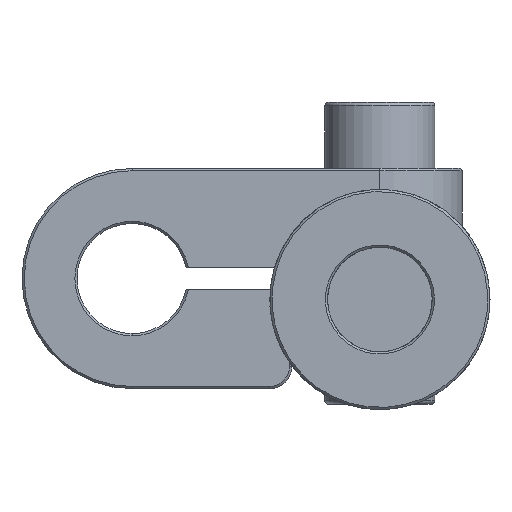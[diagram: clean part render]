
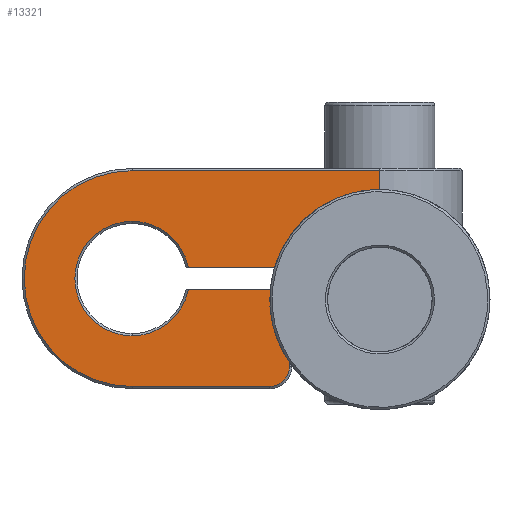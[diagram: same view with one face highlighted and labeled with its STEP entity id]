
A CAD part, front view. The second image highlights one B-rep face of the part: STEP entity #13321.
In plain terms, the highlighted planar face has unit normal (0, -1, 0).
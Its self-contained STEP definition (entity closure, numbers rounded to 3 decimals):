
#37 = VERTEX_POINT ( 'NONE', #14682 ) ;
#357 = VECTOR ( 'NONE', #19851, 1000. ) ;
#636 = LINE ( 'NONE', #1966, #12460 ) ;
#682 = AXIS2_PLACEMENT_3D ( 'NONE', #17622, #8291, #19164 ) ;
#727 = CIRCLE ( 'NONE', #4387, 5.2 ) ;
#1254 = DIRECTION ( 'NONE',  ( 0., -1., 0. ) ) ;
#1330 = EDGE_CURVE ( 'NONE', #8452, #11752, #5473, .T. ) ;
#1460 = EDGE_CURVE ( 'NONE', #8206, #5001, #16148, .T. ) ;
#1592 = VECTOR ( 'NONE', #14135, 1000. ) ;
#1966 = CARTESIAN_POINT ( 'NONE',  ( -5., 4., 8.2 ) ) ;
#2176 = CARTESIAN_POINT ( 'NONE',  ( -9.897, 4., -0.6 ) ) ;
#2623 = CARTESIAN_POINT ( 'NONE',  ( 7.5, 4., -1.6 ) ) ;
#2948 = ORIENTED_EDGE ( 'NONE', *, *, #4662, .F. ) ;
#3104 = CARTESIAN_POINT ( 'NONE',  ( -5., 4., -1.6 ) ) ;
#3151 = ORIENTED_EDGE ( 'NONE', *, *, #10092, .T. ) ;
#3195 = VECTOR ( 'NONE', #19714, 1000. ) ;
#3552 = CARTESIAN_POINT ( 'NONE',  ( -0.7, 4., -2.6 ) ) ;
#3571 = VERTEX_POINT ( 'NONE', #10937 ) ;
#3628 = EDGE_CURVE ( 'NONE', #11752, #5304, #18059, .T. ) ;
#3660 = DIRECTION ( 'NONE',  ( -1., 0., 0. ) ) ;
#3698 = CARTESIAN_POINT ( 'NONE',  ( -15., 4., 8.2 ) ) ;
#3728 = EDGE_CURVE ( 'NONE', #3571, #8206, #18762, .T. ) ;
#4387 = AXIS2_PLACEMENT_3D ( 'NONE', #16355, #7031, #17915 ) ;
#4453 = LINE ( 'NONE', #10549, #357 ) ;
#4662 = EDGE_CURVE ( 'NONE', #10784, #5304, #11424, .T. ) ;
#4664 = DIRECTION ( 'NONE',  ( 0., 0., 1. ) ) ;
#5001 = VERTEX_POINT ( 'NONE', #9795 ) ;
#5026 = CARTESIAN_POINT ( 'NONE',  ( -0.7, 4., -0.6 ) ) ;
#5033 = EDGE_CURVE ( 'NONE', #8452, #13702, #19411, .T. ) ;
#5304 = VERTEX_POINT ( 'NONE', #19697 ) ;
#5473 = CIRCLE ( 'NONE', #6913, 1.2 ) ;
#5482 = ORIENTED_EDGE ( 'NONE', *, *, #9137, .T. ) ;
#5512 = AXIS2_PLACEMENT_3D ( 'NONE', #9483, #19132, #17996 ) ;
#5848 = EDGE_CURVE ( 'NONE', #5001, #13702, #727, .T. ) ;
#6208 = VERTEX_POINT ( 'NONE', #3552 ) ;
#6913 = AXIS2_PLACEMENT_3D ( 'NONE', #9296, #8408, #11198 ) ;
#7031 = DIRECTION ( 'NONE',  ( 0., 1., 0. ) ) ;
#7160 = AXIS2_PLACEMENT_3D ( 'NONE', #10449, #1254, #12016 ) ;
#7363 = DIRECTION ( 'NONE',  ( 1., 0., 0. ) ) ;
#7381 = ORIENTED_EDGE ( 'NONE', *, *, #3628, .T. ) ;
#7884 = ORIENTED_EDGE ( 'NONE', *, *, #19046, .T. ) ;
#8206 = VERTEX_POINT ( 'NONE', #13576 ) ;
#8248 = CARTESIAN_POINT ( 'NONE',  ( -5., 4., -0.6 ) ) ;
#8291 = DIRECTION ( 'NONE',  ( 0., -1., 0. ) ) ;
#8408 = DIRECTION ( 'NONE',  ( 0., 1., 0. ) ) ;
#8452 = VERTEX_POINT ( 'NONE', #5026 ) ;
#8483 = DIRECTION ( 'NONE',  ( 0., 1., 0. ) ) ;
#8601 = CARTESIAN_POINT ( 'NONE',  ( 7.5, 4., 8.2 ) ) ;
#8737 = VECTOR ( 'NONE', #7363, 1000. ) ;
#8819 = FACE_OUTER_BOUND ( 'NONE', #9453, .T. ) ;
#8920 = ORIENTED_EDGE ( 'NONE', *, *, #1460, .T. ) ;
#9034 = CARTESIAN_POINT ( 'NONE',  ( -0.7, 4., -1.6 ) ) ;
#9137 = EDGE_CURVE ( 'NONE', #13717, #18354, #17698, .T. ) ;
#9296 = CARTESIAN_POINT ( 'NONE',  ( 0.5, 4., -0.6 ) ) ;
#9453 = EDGE_LOOP ( 'NONE', ( #11513, #15003, #8920, #13230, #16979, #17189, #7381, #2948, #3151, #5482, #12191, #7884, #12055 ) ) ;
#9483 = CARTESIAN_POINT ( 'NONE',  ( -15., 4., -1.6 ) ) ;
#9795 = CARTESIAN_POINT ( 'NONE',  ( -15., 4., 3.6 ) ) ;
#10092 = EDGE_CURVE ( 'NONE', #10784, #13717, #636, .T. ) ;
#10449 = CARTESIAN_POINT ( 'NONE',  ( -2.5, 4., -9.6 ) ) ;
#10549 = CARTESIAN_POINT ( 'NONE',  ( -5., 4., -2.6 ) ) ;
#10784 = VERTEX_POINT ( 'NONE', #8601 ) ;
#10937 = CARTESIAN_POINT ( 'NONE',  ( -9.897, 4., -2.6 ) ) ;
#10987 = EDGE_CURVE ( 'NONE', #3571, #6208, #4453, .T. ) ;
#11192 = DIRECTION ( 'NONE',  ( -1., 0., 0. ) ) ;
#11198 = DIRECTION ( 'NONE',  ( 0., 0., 1. ) ) ;
#11321 = CARTESIAN_POINT ( 'NONE',  ( -0.7, 4., -9.6 ) ) ;
#11424 = LINE ( 'NONE', #2623, #3195 ) ;
#11513 = ORIENTED_EDGE ( 'NONE', *, *, #10987, .F. ) ;
#11752 = VERTEX_POINT ( 'NONE', #12914 ) ;
#12016 = DIRECTION ( 'NONE',  ( 0., 0., 1. ) ) ;
#12049 = CIRCLE ( 'NONE', #7160, 1.8 ) ;
#12055 = ORIENTED_EDGE ( 'NONE', *, *, #18271, .T. ) ;
#12191 = ORIENTED_EDGE ( 'NONE', *, *, #14633, .T. ) ;
#12305 = PLANE ( 'NONE',  #18914 ) ;
#12460 = VECTOR ( 'NONE', #11192, 1000. ) ;
#12876 = LINE ( 'NONE', #16633, #8737 ) ;
#12914 = CARTESIAN_POINT ( 'NONE',  ( 0.5, 4., 0.6 ) ) ;
#13230 = ORIENTED_EDGE ( 'NONE', *, *, #5848, .T. ) ;
#13321 = ADVANCED_FACE ( 'NONE', ( #8819 ), #12305, .F. ) ;
#13576 = CARTESIAN_POINT ( 'NONE',  ( -15., 4., -6.8 ) ) ;
#13702 = VERTEX_POINT ( 'NONE', #2176 ) ;
#13717 = VERTEX_POINT ( 'NONE', #3698 ) ;
#13948 = DIRECTION ( 'NONE',  ( 0., 1., 0. ) ) ;
#14135 = DIRECTION ( 'NONE',  ( 1., 0., 0. ) ) ;
#14430 = AXIS2_PLACEMENT_3D ( 'NONE', #17807, #8483, #19349 ) ;
#14633 = EDGE_CURVE ( 'NONE', #18354, #37, #12876, .T. ) ;
#14682 = CARTESIAN_POINT ( 'NONE',  ( -2.5, 4., -11.4 ) ) ;
#14815 = VECTOR ( 'NONE', #3660, 1000. ) ;
#15003 = ORIENTED_EDGE ( 'NONE', *, *, #3728, .T. ) ;
#15449 = CARTESIAN_POINT ( 'NONE',  ( -15., 4., -11.4 ) ) ;
#15547 = LINE ( 'NONE', #9034, #19647 ) ;
#16148 = CIRCLE ( 'NONE', #5512, 5.2 ) ;
#16355 = CARTESIAN_POINT ( 'NONE',  ( -15., 4., -1.6 ) ) ;
#16633 = CARTESIAN_POINT ( 'NONE',  ( -5., 4., -11.4 ) ) ;
#16979 = ORIENTED_EDGE ( 'NONE', *, *, #5033, .F. ) ;
#17189 = ORIENTED_EDGE ( 'NONE', *, *, #1330, .T. ) ;
#17268 = CARTESIAN_POINT ( 'NONE',  ( -5., 4., 0.6 ) ) ;
#17622 = CARTESIAN_POINT ( 'NONE',  ( -15., 4., -1.6 ) ) ;
#17698 = CIRCLE ( 'NONE', #682, 9.8 ) ;
#17807 = CARTESIAN_POINT ( 'NONE',  ( -15., 4., -1.6 ) ) ;
#17912 = VERTEX_POINT ( 'NONE', #11321 ) ;
#17915 = DIRECTION ( 'NONE',  ( -1., 0., 0. ) ) ;
#17996 = DIRECTION ( 'NONE',  ( -1., 0., 0. ) ) ;
#18059 = LINE ( 'NONE', #17268, #1592 ) ;
#18271 = EDGE_CURVE ( 'NONE', #17912, #6208, #15547, .T. ) ;
#18354 = VERTEX_POINT ( 'NONE', #15449 ) ;
#18357 = DIRECTION ( 'NONE',  ( 0., 0., 1. ) ) ;
#18762 = CIRCLE ( 'NONE', #14430, 5.2 ) ;
#18914 = AXIS2_PLACEMENT_3D ( 'NONE', #3104, #13948, #4664 ) ;
#19046 = EDGE_CURVE ( 'NONE', #37, #17912, #12049, .T. ) ;
#19132 = DIRECTION ( 'NONE',  ( 0., 1., 0. ) ) ;
#19164 = DIRECTION ( 'NONE',  ( 0., 0., 1. ) ) ;
#19349 = DIRECTION ( 'NONE',  ( -1., 0., 0. ) ) ;
#19411 = LINE ( 'NONE', #8248, #14815 ) ;
#19647 = VECTOR ( 'NONE', #18357, 1000. ) ;
#19697 = CARTESIAN_POINT ( 'NONE',  ( 7.5, 4., 0.6 ) ) ;
#19714 = DIRECTION ( 'NONE',  ( 0., 0., -1. ) ) ;
#19851 = DIRECTION ( 'NONE',  ( 1., 0., 0. ) ) ;
